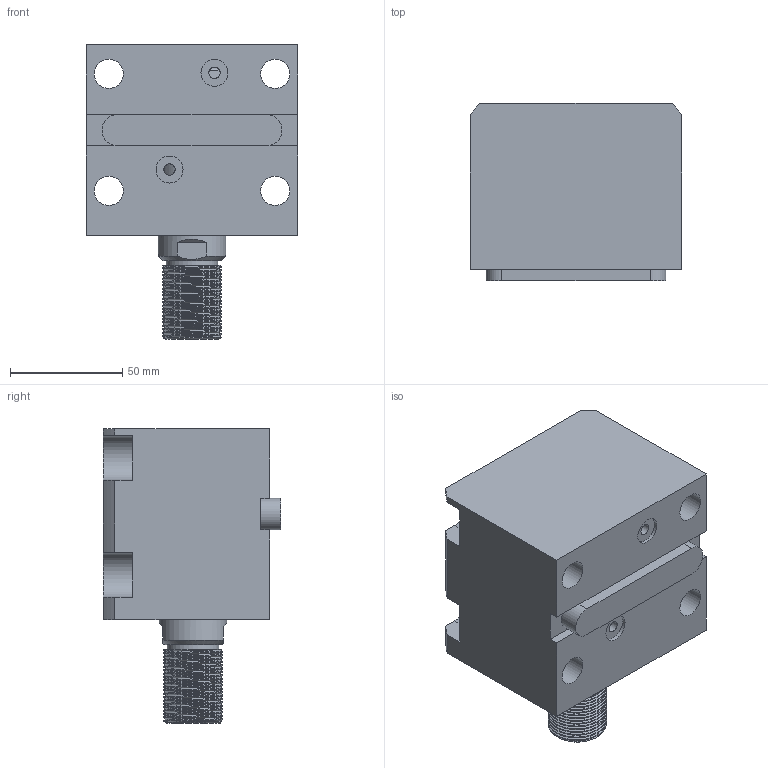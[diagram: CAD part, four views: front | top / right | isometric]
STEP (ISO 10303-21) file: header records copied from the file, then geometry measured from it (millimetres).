
FILE_DESCRIPTION(/* description */ (''),/* implementation_level */ '2;1');
FILE_NAME(/* name */ 'CHTB-LAM50-25W.stp',/* time_stamp */ '2022-04-29T18:01:57+08:00',/* author */ (''),/* organization */ (''),/* preprocessor_version */ 'ST-DEVELOPER v16.7',/* originating_system */ 'SIEMENS PLM Software NX 12.0',/* authorisation */ '');
FILE_SCHEMA (('AUTOMOTIVE_DESIGN { 1 0 10303 214 3 1 1 1 }'));
Length unit declared in the file: millimetre
Products named in the file (1): CHTB-LAM50-25W
Bounding box: 94 x 79 x 131 mm (x, y, z)
Volume: 532020.1 mm3; surface area: 100864 mm2
Topology: 3 solids, 3 shells, 469 faces, 1388 edges, 965 vertices
Faces by surface type: plane 318, extrusion 84, cylinder 40, torus 11, bspline 10, cone 6
Full cylindrical faces by diameter (mm): 4 x2, 5 x2, 12 x2, 13 x4, 23 x1, 30 x2, 39 x1, 46 x1, 50 x5, 59 x1
Entity records: 25228 total; most frequent: CARTESIAN_POINT 10997, ORIENTED_EDGE 2678, DIRECTION 1929, EDGE_CURVE 1339, VECTOR 991, VERTEX_POINT 957, LINE 907, EDGE_LOOP 562
